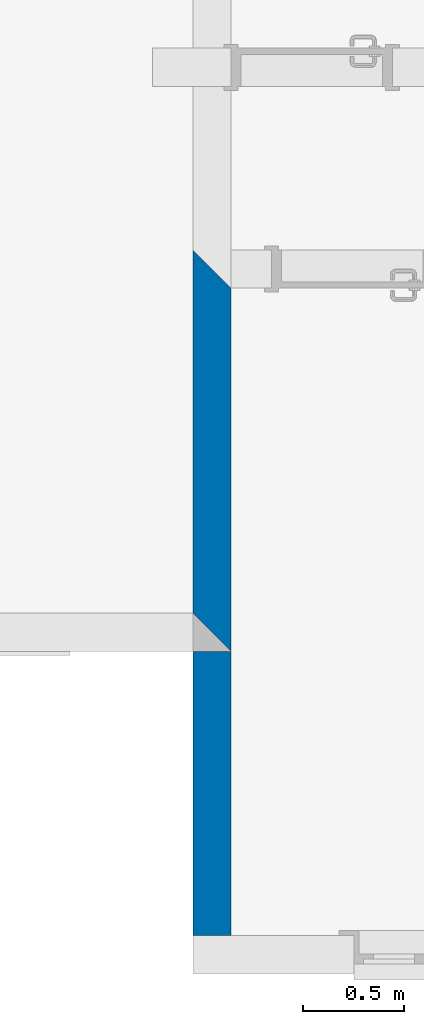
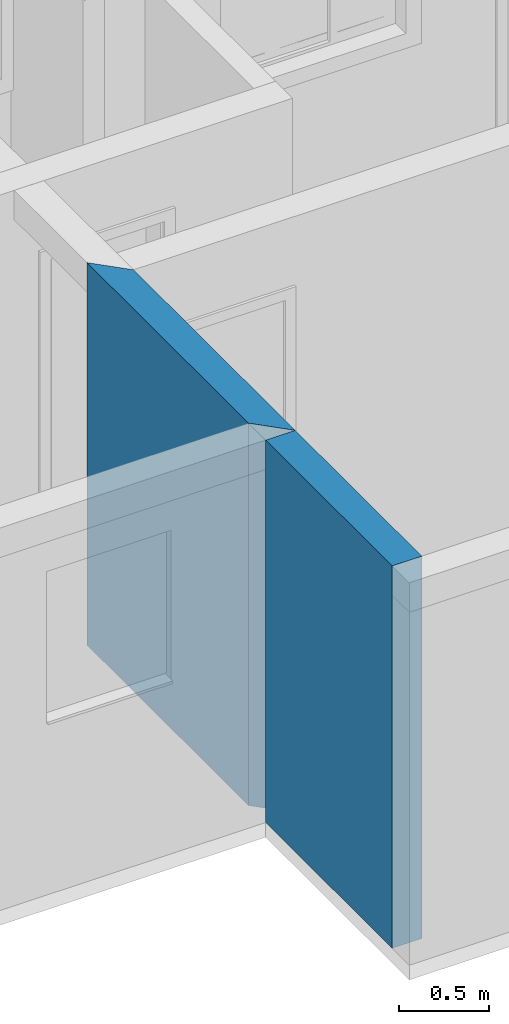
# One storey, part 4 of 47: 2 walls.
"""IFC2X3 building model written with IfcOpenShell, lengths in millimetres."""

from ifc_helpers import new_model, entity, si_unit, converted_unit, derived_unit, money_unit, direction, frame, origin_with_axes, place, context, subcontext, project, spatial, polyline, outline, extrude, material, layer, layer_set, layer_usage, type_object, element, save


model = new_model("IFC2X3")

# Units and contexts
model_context = context("Model", 3, precision=0.01, world=origin_with_axes(), true_north=direction((0.0, 1.0)))
body_context = subcontext(model_context, "Body", "Model", "MODEL_VIEW")
ifc_project = project(units=[si_unit("LENGTHUNIT", "METRE", prefix="MILLI"), si_unit("AREAUNIT", "SQUARE_METRE"), si_unit("VOLUMEUNIT", "CUBIC_METRE"), converted_unit("PLANEANGLEUNIT", "DEGREE", entity("IfcPlaneAngleMeasure", 0.0174532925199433), si_unit("PLANEANGLEUNIT", "RADIAN"), dimensions=[0, 0, 0, 0, 0, 0, 0]), money_unit("USD"), converted_unit("TIMEUNIT", "Year", entity("IfcTimeMeasure", 31557600.0), si_unit("TIMEUNIT", "SECOND"), dimensions=[0, 0, 1, 0, 0, 0, 0]), si_unit("MASSUNIT", "GRAM", prefix="KILO"), si_unit("THERMODYNAMICTEMPERATUREUNIT", "DEGREE_CELSIUS"), si_unit("LUMINOUSINTENSITYUNIT", "LUMEN"), si_unit("ENERGYUNIT", "JOULE", prefix="MEGA"), derived_unit("THERMALCONDUCTANCEUNIT", [(si_unit("POWERUNIT", "WATT"), 1), (si_unit("LENGTHUNIT", "METRE"), -1), (si_unit("THERMODYNAMICTEMPERATUREUNIT", "KELVIN"), -1)]), derived_unit("SPECIFICHEATCAPACITYUNIT", [(si_unit("ENERGYUNIT", "JOULE"), 1), (si_unit("MASSUNIT", "GRAM", prefix="KILO"), -1), (si_unit("THERMODYNAMICTEMPERATUREUNIT", "KELVIN"), -1)]), derived_unit("MASSDENSITYUNIT", [(si_unit("MASSUNIT", "GRAM", prefix="KILO"), 1), (si_unit("VOLUMEUNIT", "CUBIC_METRE"), -1)])], contexts=[model_context])

# Site, building, storey
site_placement = place(None, origin_with_axes())
site = spatial("IfcSite", under=ifc_project, at=site_placement, Name="Local", CompositionType="ELEMENT")
building_placement = place(site_placement, origin_with_axes())
building = spatial("IfcBuilding", under=site, at=building_placement, Name="Construção", CompositionType="ELEMENT")
storey_placement = place(building_placement, origin_with_axes())
storey = spatial("IfcBuildingStorey", under=building, at=storey_placement, Name="Pavimento Tipo", CompositionType="ELEMENT", Elevation=0.0)

# Walls
ifc_material = material(Name="Concreto - Estrutural")
ifc_layer = layer(ifc_material, 190.0, ventilated="UNKNOWN")
ifc_layer_set = layer_set([ifc_layer], Name="Concreto - Estrutural 190")
ifc_layer_usage_1 = layer_usage(ifc_layer_set, "AXIS2", "NEGATIVE", 0.0)
wall_type = type_object("IfcWallType", Name="Concreto - Estrutural 190", PredefinedType="NOTDEFINED")
wall_1_placement = place(storey_placement, frame((-4547.433002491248, -3.018582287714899, 0.0), z_axis=(0.0, 0.0, 1.0), x_axis=(0.0, 1.0, 0.0)))
element("IfcWallStandardCase", 1, at=wall_1_placement, inside=storey, type_object=wall_type, material=ifc_layer_usage_1, Name="Apartamento 3 - Parede-083", context=body_context, shape_type="SweptSolid", body=[
    extrude(outline(polyline([(0.0, -190.0000000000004), (1800.0, -190.0000000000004), (1990.0, 0.0), (189.9999999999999, 0.0), (0.0, -190.0000000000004)])), origin_with_axes(), (0.0, 0.0, 1.0), 2600.0),
])
ifc_layer_usage_2 = layer_usage(ifc_layer_set, "AXIS2", "NEGATIVE", 0.0)
wall_2_placement = place(storey_placement, frame((-4357.433002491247, -3.018582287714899, 0.0), z_axis=(0.0, 0.0, 1.0), x_axis=(0.0, -1.0, 0.0)))
element("IfcWallStandardCase", 2, at=wall_2_placement, inside=storey, type_object=wall_type, material=ifc_layer_usage_2, Name="Apartamento 3 - Parede-005", context=body_context, shape_type="SweptSolid", body=[
    extrude(outline(polyline([(0.0, -190.0000000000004), (1409.999999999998, -190.0000000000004), (1409.999999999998, 0.0), (0.0, 0.0), (0.0, -190.0000000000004)])), origin_with_axes(), (0.0, 0.0, 1.0), 2600.0),
])

save(model, "model.ifc")
